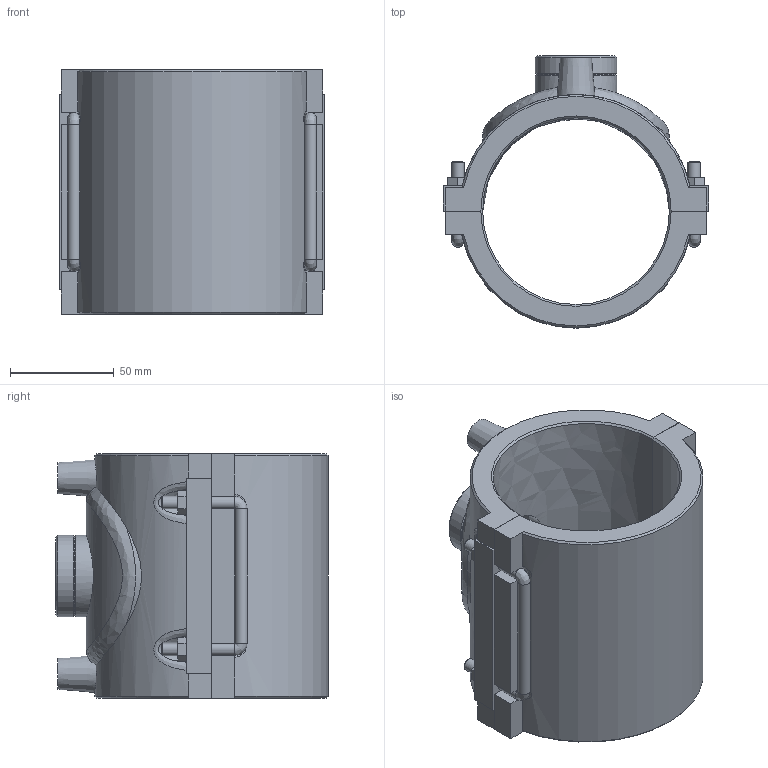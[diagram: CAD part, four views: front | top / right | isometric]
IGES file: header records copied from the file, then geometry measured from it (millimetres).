
Global section: file name: 4958T4090010.ipt; native system: Autodesk Inventor 2015; preprocessor: unknown; author: KIM; date: 20171106.094352; units: millimetre
Bounding box: 128 x 131.25 x 118 mm (x, y, z)
Volume: 496909.6 mm3; surface area: 105746 mm2
Topology: 1 solids, 3 shells, 159 faces, 409 edges, 259 vertices
Faces by surface type: plane 86, cylinder 25, revolution 18, bspline 17, cone 13
Full cylindrical faces by diameter (mm): 4 x2, 6 x8, 38.378 x1, 39.378 x2
